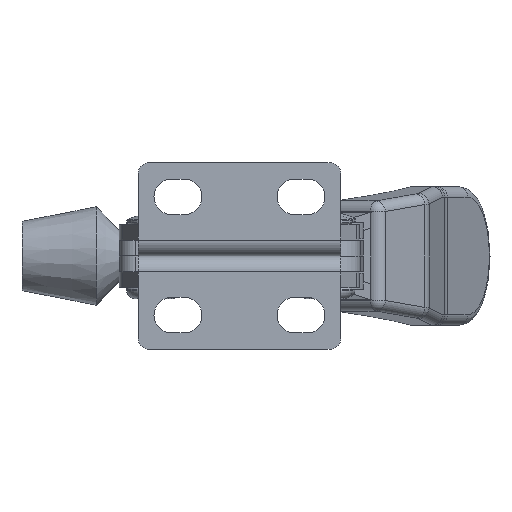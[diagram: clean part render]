
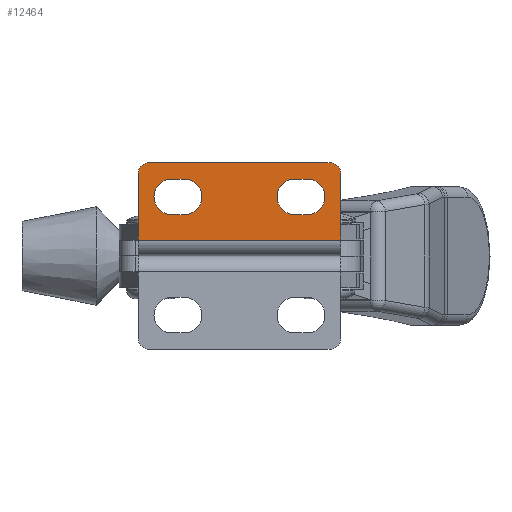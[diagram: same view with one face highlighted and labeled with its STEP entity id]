
A CAD part, front view. The second image highlights one B-rep face of the part: STEP entity #12464.
In plain terms, the highlighted planar face has unit normal (0, -1, 0).
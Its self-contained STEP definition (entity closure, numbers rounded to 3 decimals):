
#278=CIRCLE('',#13248,2.);
#279=CIRCLE('',#13249,2.);
#280=CIRCLE('',#13250,3.35);
#281=CIRCLE('',#13251,3.35);
#282=CIRCLE('',#13252,3.35);
#283=CIRCLE('',#13253,3.35);
#702=FACE_BOUND('',#2168,.T.);
#703=FACE_BOUND('',#2169,.T.);
#915=PLANE('',#13247);
#1459=FACE_OUTER_BOUND('',#2167,.T.);
#2167=EDGE_LOOP('',(#10517,#10518,#10519,#10520,#10521,#10522));
#2168=EDGE_LOOP('',(#10523,#10524,#10525,#10526));
#2169=EDGE_LOOP('',(#10527,#10528,#10529,#10530));
#3133=LINE('',#43427,#4180);
#3141=LINE('',#43448,#4188);
#3150=LINE('',#43472,#4197);
#3155=LINE('',#43486,#4202);
#3156=LINE('',#43492,#4203);
#3157=LINE('',#43495,#4204);
#3158=LINE('',#43500,#4205);
#3159=LINE('',#43503,#4206);
#4180=VECTOR('',#15098,1000.);
#4188=VECTOR('',#15114,1000.);
#4197=VECTOR('',#15131,1000.);
#4202=VECTOR('',#15142,1000.);
#4203=VECTOR('',#15147,1000.);
#4204=VECTOR('',#15150,1000.);
#4205=VECTOR('',#15153,1000.);
#4206=VECTOR('',#15156,1000.);
#5797=VERTEX_POINT('',#43420);
#5800=VERTEX_POINT('',#43425);
#5809=VERTEX_POINT('',#43447);
#5820=VERTEX_POINT('',#43470);
#5825=VERTEX_POINT('',#43483);
#5826=VERTEX_POINT('',#43485);
#5827=VERTEX_POINT('',#43488);
#5828=VERTEX_POINT('',#43489);
#5829=VERTEX_POINT('',#43491);
#5830=VERTEX_POINT('',#43493);
#5831=VERTEX_POINT('',#43496);
#5832=VERTEX_POINT('',#43497);
#5833=VERTEX_POINT('',#43499);
#5834=VERTEX_POINT('',#43501);
#7431=EDGE_CURVE('',#5800,#5797,#3133,.T.);
#7441=EDGE_CURVE('',#5809,#5797,#3141,.T.);
#7453=EDGE_CURVE('',#5820,#5800,#3150,.T.);
#7459=EDGE_CURVE('',#5820,#5825,#278,.T.);
#7460=EDGE_CURVE('',#5825,#5826,#3155,.T.);
#7461=EDGE_CURVE('',#5826,#5809,#279,.T.);
#7462=EDGE_CURVE('',#5827,#5828,#280,.T.);
#7463=EDGE_CURVE('',#5829,#5827,#3156,.T.);
#7464=EDGE_CURVE('',#5830,#5829,#281,.T.);
#7465=EDGE_CURVE('',#5828,#5830,#3157,.T.);
#7466=EDGE_CURVE('',#5831,#5832,#282,.T.);
#7467=EDGE_CURVE('',#5833,#5831,#3158,.T.);
#7468=EDGE_CURVE('',#5834,#5833,#283,.T.);
#7469=EDGE_CURVE('',#5832,#5834,#3159,.T.);
#10517=ORIENTED_EDGE('',*,*,#7431,.F.);
#10518=ORIENTED_EDGE('',*,*,#7453,.F.);
#10519=ORIENTED_EDGE('',*,*,#7459,.T.);
#10520=ORIENTED_EDGE('',*,*,#7460,.T.);
#10521=ORIENTED_EDGE('',*,*,#7461,.T.);
#10522=ORIENTED_EDGE('',*,*,#7441,.T.);
#10523=ORIENTED_EDGE('',*,*,#7462,.F.);
#10524=ORIENTED_EDGE('',*,*,#7463,.F.);
#10525=ORIENTED_EDGE('',*,*,#7464,.F.);
#10526=ORIENTED_EDGE('',*,*,#7465,.F.);
#10527=ORIENTED_EDGE('',*,*,#7466,.F.);
#10528=ORIENTED_EDGE('',*,*,#7467,.F.);
#10529=ORIENTED_EDGE('',*,*,#7468,.F.);
#10530=ORIENTED_EDGE('',*,*,#7469,.F.);
#12464=ADVANCED_FACE('',(#1459,#702,#703),#915,.F.);
#13247=AXIS2_PLACEMENT_3D('',#43482,#15138,#15139);
#13248=AXIS2_PLACEMENT_3D('',#43484,#15140,#15141);
#13249=AXIS2_PLACEMENT_3D('',#43487,#15143,#15144);
#13250=AXIS2_PLACEMENT_3D('',#43490,#15145,#15146);
#13251=AXIS2_PLACEMENT_3D('',#43494,#15148,#15149);
#13252=AXIS2_PLACEMENT_3D('',#43498,#15151,#15152);
#13253=AXIS2_PLACEMENT_3D('',#43502,#15154,#15155);
#15098=DIRECTION('',(-1.,0.,0.));
#15114=DIRECTION('',(0.,0.,-1.));
#15131=DIRECTION('',(0.,0.,-1.));
#15138=DIRECTION('center_axis',(0.,1.,0.));
#15139=DIRECTION('ref_axis',(0.,0.,1.));
#15140=DIRECTION('center_axis',(0.,-1.,0.));
#15141=DIRECTION('ref_axis',(0.,0.,-1.));
#15142=DIRECTION('',(-1.,0.,0.));
#15143=DIRECTION('center_axis',(0.,-1.,0.));
#15144=DIRECTION('ref_axis',(0.,0.,-1.));
#15145=DIRECTION('center_axis',(0.,-1.,0.));
#15146=DIRECTION('ref_axis',(0.,0.,-1.));
#15147=DIRECTION('',(1.,0.,0.));
#15148=DIRECTION('center_axis',(0.,-1.,0.));
#15149=DIRECTION('ref_axis',(0.,0.,-1.));
#15150=DIRECTION('',(-1.,0.,0.));
#15151=DIRECTION('center_axis',(0.,-1.,0.));
#15152=DIRECTION('ref_axis',(0.,0.,1.));
#15153=DIRECTION('',(1.,0.,0.));
#15154=DIRECTION('center_axis',(0.,-1.,0.));
#15155=DIRECTION('ref_axis',(0.,0.,1.));
#15156=DIRECTION('',(-1.,0.,0.));
#43420=CARTESIAN_POINT('',(0.,0.,3.));
#43425=CARTESIAN_POINT('',(38.,0.,3.));
#43427=CARTESIAN_POINT('',(50.,0.,3.));
#43447=CARTESIAN_POINT('',(0.,0.,15.5));
#43448=CARTESIAN_POINT('',(0.,0.,6.));
#43470=CARTESIAN_POINT('',(38.,0.,15.5));
#43472=CARTESIAN_POINT('',(38.,0.,6.));
#43482=CARTESIAN_POINT('Origin',(0.,0.,6.));
#43483=CARTESIAN_POINT('',(36.,0.,17.5));
#43484=CARTESIAN_POINT('Origin',(36.,0.,15.5));
#43485=CARTESIAN_POINT('',(2.,0.,17.5));
#43486=CARTESIAN_POINT('',(36.,0.,17.5));
#43487=CARTESIAN_POINT('Origin',(2.,0.,15.5));
#43488=CARTESIAN_POINT('',(31.7,0.,7.75));
#43489=CARTESIAN_POINT('',(31.7,0.,14.45));
#43490=CARTESIAN_POINT('Origin',(31.7,0.,11.1));
#43491=CARTESIAN_POINT('',(29.4,0.,7.75));
#43492=CARTESIAN_POINT('',(31.7,0.,7.75));
#43493=CARTESIAN_POINT('',(29.4,0.,14.45));
#43494=CARTESIAN_POINT('Origin',(29.4,0.,11.1));
#43495=CARTESIAN_POINT('',(31.7,0.,14.45));
#43496=CARTESIAN_POINT('',(8.6,0.,7.75));
#43497=CARTESIAN_POINT('',(8.6,0.,14.45));
#43498=CARTESIAN_POINT('Origin',(8.6,0.,11.1));
#43499=CARTESIAN_POINT('',(6.3,0.,7.75));
#43500=CARTESIAN_POINT('',(6.3,0.,7.75));
#43501=CARTESIAN_POINT('',(6.3,0.,14.45));
#43502=CARTESIAN_POINT('Origin',(6.3,0.,11.1));
#43503=CARTESIAN_POINT('',(6.3,0.,14.45));
